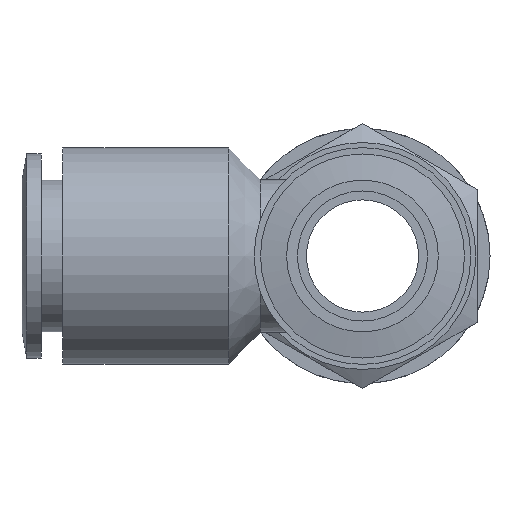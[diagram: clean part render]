
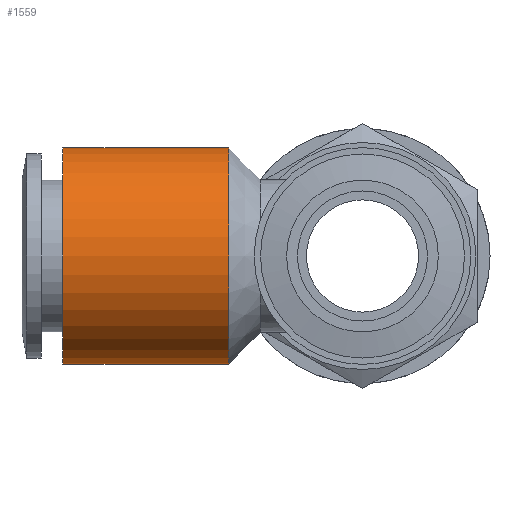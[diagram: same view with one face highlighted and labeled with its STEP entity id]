
A CAD part, left-side view. The second image highlights one B-rep face of the part: STEP entity #1559.
In plain terms, the highlighted cylindrical face has radius 8.5 mm (diameter 17 mm), a full revolution.
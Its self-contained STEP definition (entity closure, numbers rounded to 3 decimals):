
#1525=CARTESIAN_POINT('',(-8.5,10.5,0.0));
#1526=VERTEX_POINT('',#1525);
#1527=CARTESIAN_POINT('',(0.0,10.5,0.0));
#1528=DIRECTION('',(0.0,1.0,0.0));
#1529=DIRECTION('',(-1.0,0.0,0.0));
#1530=AXIS2_PLACEMENT_3D('',#1527,#1528,#1529);
#1531=CIRCLE('',#1530,8.5);
#1532=EDGE_CURVE('',#1526,#1526,#1531,.T.);
#1540=CARTESIAN_POINT('',(0.0,17.0,0.0));
#1541=DIRECTION('',(0.0,1.0,0.0));
#1542=DIRECTION('',(-1.0,0.0,0.0));
#1543=AXIS2_PLACEMENT_3D('',#1540,#1541,#1542);
#1544=CYLINDRICAL_SURFACE('',#1543,8.5);
#1545=CARTESIAN_POINT('',(-8.5,23.5,0.0));
#1546=VERTEX_POINT('',#1545);
#1547=CARTESIAN_POINT('',(0.0,23.5,0.0));
#1548=DIRECTION('',(0.0,1.0,0.0));
#1549=DIRECTION('',(-1.0,0.0,0.0));
#1550=AXIS2_PLACEMENT_3D('',#1547,#1548,#1549);
#1551=CIRCLE('',#1550,8.5);
#1552=EDGE_CURVE('',#1546,#1546,#1551,.T.);
#1553=ORIENTED_EDGE('',*,*,#1552,.F.);
#1554=EDGE_LOOP('',(#1553));
#1555=FACE_OUTER_BOUND('',#1554,.T.);
#1556=ORIENTED_EDGE('',*,*,#1532,.T.);
#1557=EDGE_LOOP('',(#1556));
#1558=FACE_BOUND('',#1557,.T.);
#1559=ADVANCED_FACE('',(#1555,#1558),#1544,.T.);
